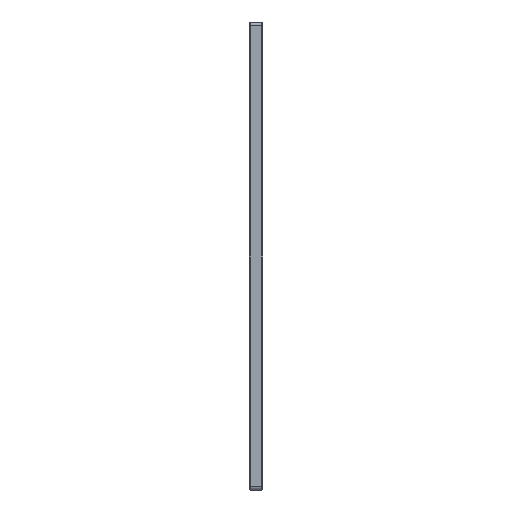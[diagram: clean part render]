
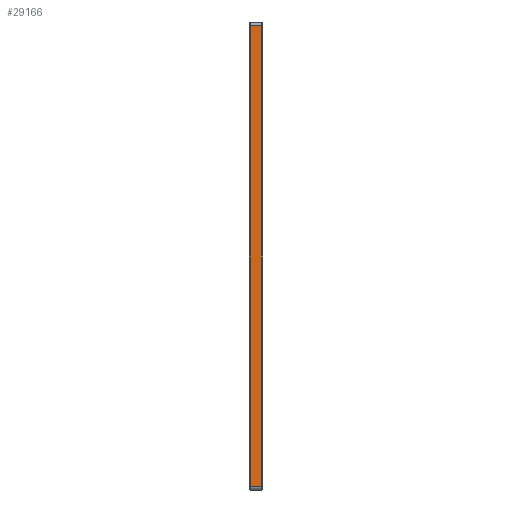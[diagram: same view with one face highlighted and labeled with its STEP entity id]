
A CAD part, left-side view. The second image highlights one B-rep face of the part: STEP entity #29166.
In plain terms, the highlighted planar face has unit normal (-1, 0, 0).
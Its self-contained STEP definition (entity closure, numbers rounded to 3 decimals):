
#8315=DIRECTION('',(0.,0.,1.));
#8316=VECTOR('',#8315,492.);
#8317=CARTESIAN_POINT('',(-250.,13.,-246.));
#8318=LINE('',#8317,#8316);
#8319=DIRECTION('',(0.,-1.,0.));
#8320=VECTOR('',#8319,12.);
#8321=CARTESIAN_POINT('',(-250.,13.,246.));
#8322=LINE('',#8321,#8320);
#8323=DIRECTION('',(0.,0.,-1.));
#8324=VECTOR('',#8323,492.);
#8325=CARTESIAN_POINT('',(-250.,1.,246.));
#8326=LINE('',#8325,#8324);
#8327=DIRECTION('',(0.,-1.,0.));
#8328=VECTOR('',#8327,12.);
#8329=CARTESIAN_POINT('',(-250.,13.,-246.));
#8330=LINE('',#8329,#8328);
#20117=CARTESIAN_POINT('',(-250.,13.,-246.));
#20118=VERTEX_POINT('',#20117);
#20121=CARTESIAN_POINT('',(-250.,13.,246.));
#20122=VERTEX_POINT('',#20121);
#20132=CARTESIAN_POINT('',(-250.,1.,246.));
#20134=VERTEX_POINT('',#20132);
#20137=CARTESIAN_POINT('',(-250.,1.,-246.));
#20138=VERTEX_POINT('',#20137);
#29153=CARTESIAN_POINT('',(-250.,0.,-250.));
#29154=DIRECTION('',(-1.,0.,0.));
#29155=DIRECTION('',(0.,0.,1.));
#29156=AXIS2_PLACEMENT_3D('',#29153,#29154,#29155);
#29157=PLANE('',#29156);
#29158=ORIENTED_EDGE('',*,*,#29035,.T.);
#29160=ORIENTED_EDGE('',*,*,#29159,.T.);
#29162=ORIENTED_EDGE('',*,*,#29161,.T.);
#29163=ORIENTED_EDGE('',*,*,#29145,.F.);
#29164=EDGE_LOOP('',(#29158,#29160,#29162,#29163));
#29165=FACE_OUTER_BOUND('',#29164,.F.);
#29166=ADVANCED_FACE('',(#29165),#29157,.T.);
#29035=EDGE_CURVE('',#20118,#20122,#8318,.T.);
#29145=EDGE_CURVE('',#20118,#20138,#8330,.T.);
#29159=EDGE_CURVE('',#20122,#20134,#8322,.T.);
#29161=EDGE_CURVE('',#20134,#20138,#8326,.T.);
